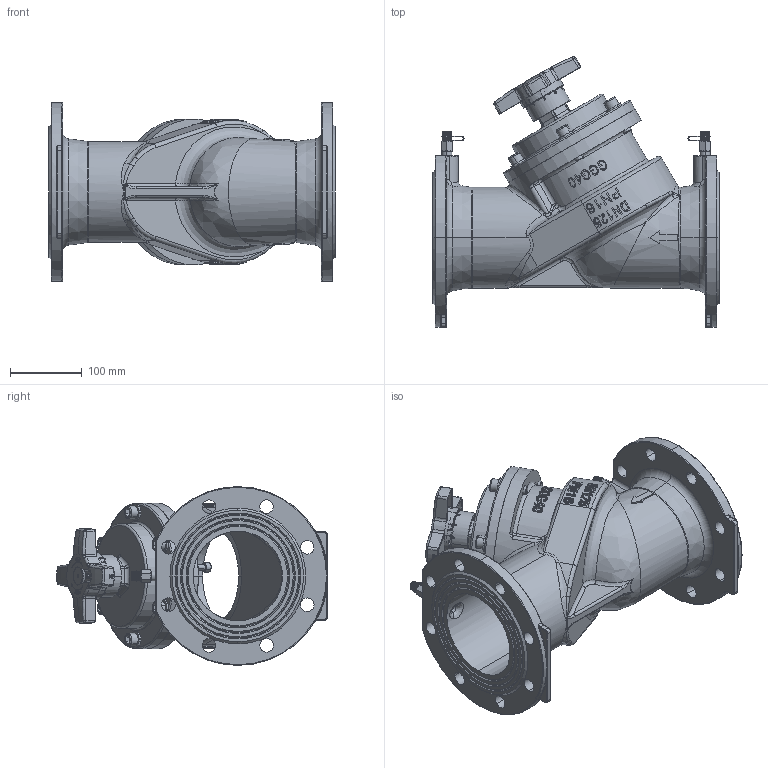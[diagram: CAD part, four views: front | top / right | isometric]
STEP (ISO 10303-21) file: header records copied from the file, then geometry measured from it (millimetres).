
FILE_DESCRIPTION (( 'STEP AP203' ), '1' );
FILE_NAME ('DN125平衡阀装配体.STEP', '2024-03-01T01:51:01', ( 'MicroSoft' ), ( 'MicroSoft' ), 'SwSTEP 2.0', 'SolidWorks 2024', '' );
FILE_SCHEMA (( 'CONFIG_CONTROL_DESIGN' ));
Length unit declared in the file: millimetre
Products named in the file (16): DN125平衡阀装配体; HW125-TH19-18-01副本-无圆角2; o-rings series a gb_GB-T 3452.1 8x1.8-A; HW125-TH19-18-00 - 双视窗; 平垫圈 A级_12_12; HW125-TH19-18-06-无圆角; 内六角圆柱头螺钉_M8×20_M8×20; HW125-TH19-18-05-无圆角; HW125-TH19-18-03-无圆角; hexagon socket head cap screws gb_GB_FASTENER_SCREWS_HSHCS M12X40-N; TEST  NOZZLE; DSSV125-0FP01-02平阀盖125; HW125-TH19-18-07-无圆角; DSSV125-0FP01-01阀体; 标准型弹性垫圈(装配)_8_8; HW125-TH19-18-02-无圆角
Assembly tree (31 placements, depth 3):
  DN125平衡阀装配体
    DSSV125-0FP01-01阀体
    DSSV125-0FP01-02平阀盖125
    TEST  NOZZLE  x2
    平垫圈 A级_12_12  x6
    内六角圆柱头螺钉_M8×20_M8×20  x4
    标准型弹性垫圈(装配)_8_8  x3
    o-rings series a gb_GB-T 3452.1 8x1.8-A
    hexagon socket head cap screws gb_GB_FASTENER_SCREWS_HSHCS M12X40-N  x6
    HW125-TH19-18-00 - 双视窗
      HW125-TH19-18-02-无圆角
      HW125-TH19-18-01副本-无圆角2
      HW125-TH19-18-03-无圆角
      HW125-TH19-18-05-无圆角
      HW125-TH19-18-06-无圆角
      HW125-TH19-18-07-无圆角
Bounding box: 400 x 378.25 x 250 mm (x, y, z)
Volume: 4334390.4 mm3; surface area: 896042.2 mm2
Topology: 34 solids, 34 shells, 5770 faces, 14262 edges, 8855 vertices
Faces by surface type: plane 2100, cylinder 1489, bspline 1003, torus 828, cone 211, sphere 139
Entity records: 239871 total; most frequent: CARTESIAN_POINT 119991, ORIENTED_EDGE 25924, DIRECTION 22570, EDGE_CURVE 12962, AXIS2_PLACEMENT_3D 8641, VERTEX_POINT 8091, EDGE_LOOP 5717, VECTOR 5288
